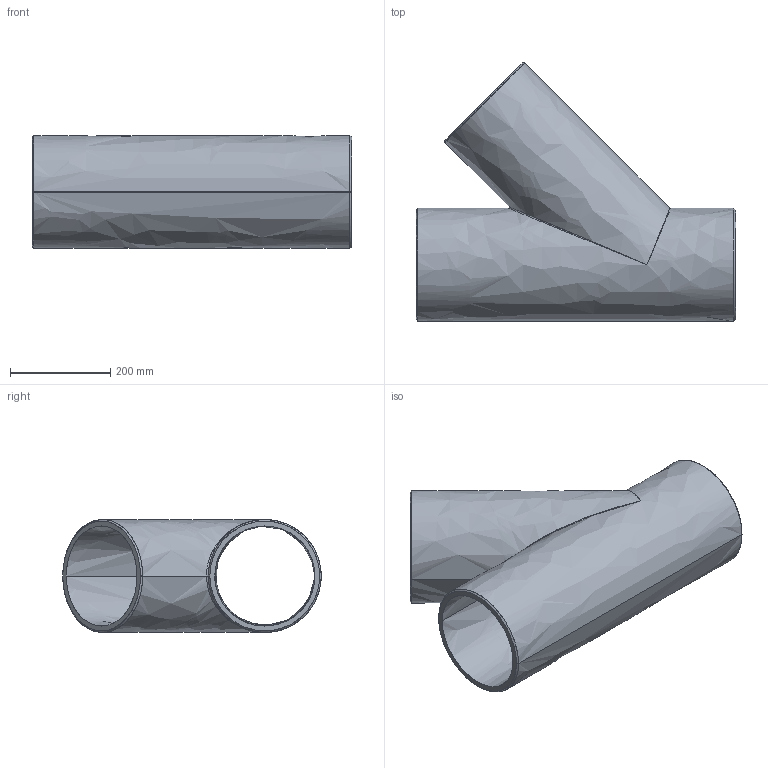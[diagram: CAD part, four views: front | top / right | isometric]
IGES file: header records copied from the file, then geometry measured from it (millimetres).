
Start section:  PTC IGES file: ats45_d225.igs
Global section: file name: ats45_d225.igs; native system: Pro/ENGINEER by Parametric Technology Corporation; preprocessor: 2011490; author: mtunjic; organization: Unknown; date: 20130724.093537; units: millimetre
Bounding box: 637 x 515.2 x 225 mm (x, y, z)
Surface area: 1317008.2 mm2 (no closed solid volume)
Topology: 0 solids, 0 shells, 22 faces, 106 edges, 106 vertices
Faces by surface type: bspline 22
